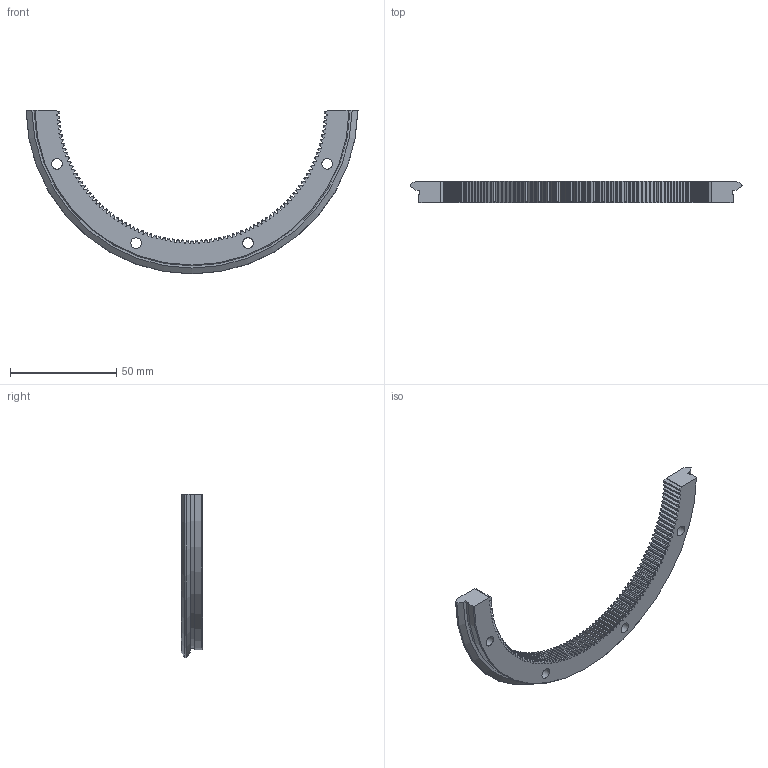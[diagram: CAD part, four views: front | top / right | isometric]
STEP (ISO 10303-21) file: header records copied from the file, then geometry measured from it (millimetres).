
FILE_DESCRIPTION(('STEP AP203'),'1');
FILE_NAME('REV 156 R180 Q.stp','2022-07-19T05:00:53',(' '),(' '),'Spatial InterOp 3D',' ',' ');
FILE_SCHEMA(('CONFIG_CONTROL_DESIGN'));
Length unit declared in the file: millimetre
Products named in the file (1): REV 156 R180 Q
Bounding box: 156.19 x 10 x 77.1 mm (x, y, z)
Volume: 25299 mm3; surface area: 13159.7 mm2
Topology: 1 solids, 1 shells, 470 faces, 1396 edges, 932 vertices
Faces by surface type: cylinder 189, plane 188, cone 92, torus 1
Full cylindrical faces by diameter (mm): 5 x4, 8 x4
Entity records: 16094 total; most frequent: CARTESIAN_POINT 3363, ORIENTED_EDGE 2768, DIRECTION 2612, EDGE_CURVE 1384, AXIS2_PLACEMENT_3D 943, VERTEX_POINT 928, LINE 726, VECTOR 726
